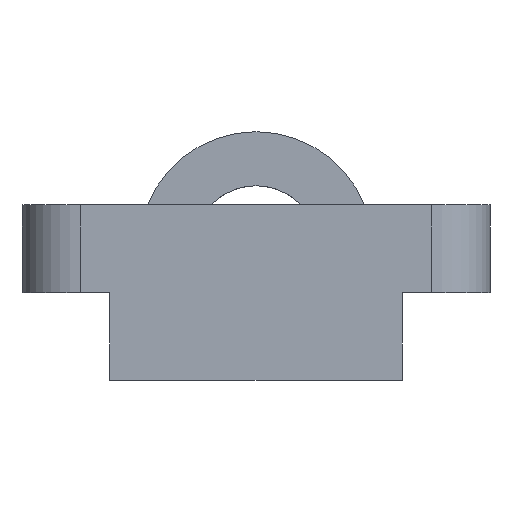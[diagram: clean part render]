
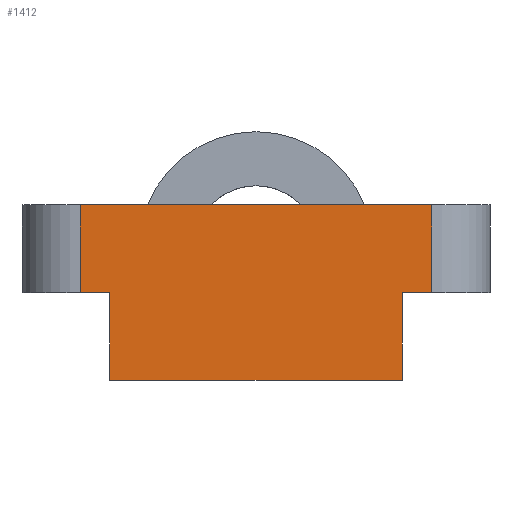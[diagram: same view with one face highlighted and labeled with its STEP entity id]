
A CAD part, front view. The second image highlights one B-rep face of the part: STEP entity #1412.
In plain terms, the highlighted planar face has unit normal (0, -1, 0).
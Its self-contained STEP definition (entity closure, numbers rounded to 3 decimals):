
#44 = PLANE('',#45);
#45 = AXIS2_PLACEMENT_3D('',#46,#47,#48);
#46 = CARTESIAN_POINT('',(-8.,-20.,0.));
#47 = DIRECTION('',(0.,0.,1.));
#48 = DIRECTION('',(1.,0.,0.));
#100 = PLANE('',#101);
#101 = AXIS2_PLACEMENT_3D('',#102,#103,#104);
#102 = CARTESIAN_POINT('',(-8.,-20.,3.));
#103 = DIRECTION('',(0.,0.,1.));
#104 = DIRECTION('',(1.,0.,0.));
#208 = PLANE('',#209);
#209 = AXIS2_PLACEMENT_3D('',#210,#211,#212);
#210 = CARTESIAN_POINT('',(-8.,-20.,0.));
#211 = DIRECTION('',(0.,0.,1.));
#212 = DIRECTION('',(1.,0.,0.));
#236 = PLANE('',#237);
#237 = AXIS2_PLACEMENT_3D('',#238,#239,#240);
#238 = CARTESIAN_POINT('',(5.,-20.,-3.));
#239 = DIRECTION('',(1.,0.,0.));
#240 = DIRECTION('',(0.,0.,1.));
#264 = PLANE('',#265);
#265 = AXIS2_PLACEMENT_3D('',#266,#267,#268);
#266 = CARTESIAN_POINT('',(-5.,-20.,-3.));
#267 = DIRECTION('',(0.,0.,1.));
#268 = DIRECTION('',(1.,0.,0.));
#290 = PLANE('',#291);
#291 = AXIS2_PLACEMENT_3D('',#292,#293,#294);
#292 = CARTESIAN_POINT('',(-5.,-20.,-3.));
#293 = DIRECTION('',(1.,0.,0.));
#294 = DIRECTION('',(0.,0.,1.));
#394 = VERTEX_POINT('',#395);
#395 = CARTESIAN_POINT('',(-6.,-20.,0.));
#410 = CYLINDRICAL_SURFACE('',#411,2.);
#411 = AXIS2_PLACEMENT_3D('',#412,#413,#414);
#412 = CARTESIAN_POINT('',(-6.,-18.,0.));
#413 = DIRECTION('',(0.,0.,1.));
#414 = DIRECTION('',(-1.,-0.,0.));
#422 = EDGE_CURVE('',#394,#423,#425,.T.);
#423 = VERTEX_POINT('',#424);
#424 = CARTESIAN_POINT('',(-5.,-20.,0.));
#425 = SURFACE_CURVE('',#426,(#430,#437),.PCURVE_S1.);
#426 = LINE('',#427,#428);
#427 = CARTESIAN_POINT('',(-8.,-20.,0.));
#428 = VECTOR('',#429,1.);
#429 = DIRECTION('',(1.,0.,0.));
#430 = PCURVE('',#44,#431);
#431 = DEFINITIONAL_REPRESENTATION('',(#432),#436);
#432 = LINE('',#433,#434);
#433 = CARTESIAN_POINT('',(0.,0.));
#434 = VECTOR('',#435,1.);
#435 = DIRECTION('',(1.,0.));
#436 = ( GEOMETRIC_REPRESENTATION_CONTEXT(2) 
PARAMETRIC_REPRESENTATION_CONTEXT() REPRESENTATION_CONTEXT('2D SPACE',''
  ) );
#437 = PCURVE('',#438,#443);
#438 = PLANE('',#439);
#439 = AXIS2_PLACEMENT_3D('',#440,#441,#442);
#440 = CARTESIAN_POINT('',(-8.,-20.,0.));
#441 = DIRECTION('',(0.,1.,0.));
#442 = DIRECTION('',(0.,0.,1.));
#443 = DEFINITIONAL_REPRESENTATION('',(#444),#448);
#444 = LINE('',#445,#446);
#445 = CARTESIAN_POINT('',(0.,0.));
#446 = VECTOR('',#447,1.);
#447 = DIRECTION('',(0.,1.));
#448 = ( GEOMETRIC_REPRESENTATION_CONTEXT(2) 
PARAMETRIC_REPRESENTATION_CONTEXT() REPRESENTATION_CONTEXT('2D SPACE',''
  ) );
#524 = EDGE_CURVE('',#525,#423,#527,.T.);
#525 = VERTEX_POINT('',#526);
#526 = CARTESIAN_POINT('',(-5.,-20.,-3.));
#527 = SURFACE_CURVE('',#528,(#532,#539),.PCURVE_S1.);
#528 = LINE('',#529,#530);
#529 = CARTESIAN_POINT('',(-5.,-20.,-3.));
#530 = VECTOR('',#531,1.);
#531 = DIRECTION('',(0.,0.,1.));
#532 = PCURVE('',#290,#533);
#533 = DEFINITIONAL_REPRESENTATION('',(#534),#538);
#534 = LINE('',#535,#536);
#535 = CARTESIAN_POINT('',(0.,0.));
#536 = VECTOR('',#537,1.);
#537 = DIRECTION('',(1.,0.));
#538 = ( GEOMETRIC_REPRESENTATION_CONTEXT(2) 
PARAMETRIC_REPRESENTATION_CONTEXT() REPRESENTATION_CONTEXT('2D SPACE',''
  ) );
#539 = PCURVE('',#438,#540);
#540 = DEFINITIONAL_REPRESENTATION('',(#541),#545);
#541 = LINE('',#542,#543);
#542 = CARTESIAN_POINT('',(-3.,3.));
#543 = VECTOR('',#544,1.);
#544 = DIRECTION('',(1.,0.));
#545 = ( GEOMETRIC_REPRESENTATION_CONTEXT(2) 
PARAMETRIC_REPRESENTATION_CONTEXT() REPRESENTATION_CONTEXT('2D SPACE',''
  ) );
#599 = VERTEX_POINT('',#600);
#600 = CARTESIAN_POINT('',(-6.,-20.,3.));
#622 = EDGE_CURVE('',#599,#623,#625,.T.);
#623 = VERTEX_POINT('',#624);
#624 = CARTESIAN_POINT('',(6.,-20.,3.));
#625 = SURFACE_CURVE('',#626,(#630,#637),.PCURVE_S1.);
#626 = LINE('',#627,#628);
#627 = CARTESIAN_POINT('',(-8.,-20.,3.));
#628 = VECTOR('',#629,1.);
#629 = DIRECTION('',(1.,0.,0.));
#630 = PCURVE('',#100,#631);
#631 = DEFINITIONAL_REPRESENTATION('',(#632),#636);
#632 = LINE('',#633,#634);
#633 = CARTESIAN_POINT('',(0.,0.));
#634 = VECTOR('',#635,1.);
#635 = DIRECTION('',(1.,0.));
#636 = ( GEOMETRIC_REPRESENTATION_CONTEXT(2) 
PARAMETRIC_REPRESENTATION_CONTEXT() REPRESENTATION_CONTEXT('2D SPACE',''
  ) );
#637 = PCURVE('',#438,#638);
#638 = DEFINITIONAL_REPRESENTATION('',(#639),#643);
#639 = LINE('',#640,#641);
#640 = CARTESIAN_POINT('',(3.,0.));
#641 = VECTOR('',#642,1.);
#642 = DIRECTION('',(0.,1.));
#643 = ( GEOMETRIC_REPRESENTATION_CONTEXT(2) 
PARAMETRIC_REPRESENTATION_CONTEXT() REPRESENTATION_CONTEXT('2D SPACE',''
  ) );
#666 = CYLINDRICAL_SURFACE('',#667,2.);
#667 = AXIS2_PLACEMENT_3D('',#668,#669,#670);
#668 = CARTESIAN_POINT('',(6.,-18.,0.));
#669 = DIRECTION('',(0.,0.,1.));
#670 = DIRECTION('',(1.,0.,-0.));
#962 = EDGE_CURVE('',#525,#963,#965,.T.);
#963 = VERTEX_POINT('',#964);
#964 = CARTESIAN_POINT('',(5.,-20.,-3.));
#965 = SURFACE_CURVE('',#966,(#970,#977),.PCURVE_S1.);
#966 = LINE('',#967,#968);
#967 = CARTESIAN_POINT('',(-5.,-20.,-3.));
#968 = VECTOR('',#969,1.);
#969 = DIRECTION('',(1.,0.,0.));
#970 = PCURVE('',#264,#971);
#971 = DEFINITIONAL_REPRESENTATION('',(#972),#976);
#972 = LINE('',#973,#974);
#973 = CARTESIAN_POINT('',(0.,0.));
#974 = VECTOR('',#975,1.);
#975 = DIRECTION('',(1.,0.));
#976 = ( GEOMETRIC_REPRESENTATION_CONTEXT(2) 
PARAMETRIC_REPRESENTATION_CONTEXT() REPRESENTATION_CONTEXT('2D SPACE',''
  ) );
#977 = PCURVE('',#438,#978);
#978 = DEFINITIONAL_REPRESENTATION('',(#979),#983);
#979 = LINE('',#980,#981);
#980 = CARTESIAN_POINT('',(-3.,3.));
#981 = VECTOR('',#982,1.);
#982 = DIRECTION('',(0.,1.));
#983 = ( GEOMETRIC_REPRESENTATION_CONTEXT(2) 
PARAMETRIC_REPRESENTATION_CONTEXT() REPRESENTATION_CONTEXT('2D SPACE',''
  ) );
#1108 = EDGE_CURVE('',#963,#1109,#1111,.T.);
#1109 = VERTEX_POINT('',#1110);
#1110 = CARTESIAN_POINT('',(5.,-20.,0.));
#1111 = SURFACE_CURVE('',#1112,(#1116,#1123),.PCURVE_S1.);
#1112 = LINE('',#1113,#1114);
#1113 = CARTESIAN_POINT('',(5.,-20.,-3.));
#1114 = VECTOR('',#1115,1.);
#1115 = DIRECTION('',(0.,0.,1.));
#1116 = PCURVE('',#236,#1117);
#1117 = DEFINITIONAL_REPRESENTATION('',(#1118),#1122);
#1118 = LINE('',#1119,#1120);
#1119 = CARTESIAN_POINT('',(0.,0.));
#1120 = VECTOR('',#1121,1.);
#1121 = DIRECTION('',(1.,0.));
#1122 = ( GEOMETRIC_REPRESENTATION_CONTEXT(2) 
PARAMETRIC_REPRESENTATION_CONTEXT() REPRESENTATION_CONTEXT('2D SPACE',''
  ) );
#1123 = PCURVE('',#438,#1124);
#1124 = DEFINITIONAL_REPRESENTATION('',(#1125),#1129);
#1125 = LINE('',#1126,#1127);
#1126 = CARTESIAN_POINT('',(-3.,13.));
#1127 = VECTOR('',#1128,1.);
#1128 = DIRECTION('',(1.,0.));
#1129 = ( GEOMETRIC_REPRESENTATION_CONTEXT(2) 
PARAMETRIC_REPRESENTATION_CONTEXT() REPRESENTATION_CONTEXT('2D SPACE',''
  ) );
#1159 = EDGE_CURVE('',#1109,#1160,#1162,.T.);
#1160 = VERTEX_POINT('',#1161);
#1161 = CARTESIAN_POINT('',(6.,-20.,0.));
#1162 = SURFACE_CURVE('',#1163,(#1167,#1174),.PCURVE_S1.);
#1163 = LINE('',#1164,#1165);
#1164 = CARTESIAN_POINT('',(-8.,-20.,0.));
#1165 = VECTOR('',#1166,1.);
#1166 = DIRECTION('',(1.,0.,0.));
#1167 = PCURVE('',#208,#1168);
#1168 = DEFINITIONAL_REPRESENTATION('',(#1169),#1173);
#1169 = LINE('',#1170,#1171);
#1170 = CARTESIAN_POINT('',(0.,0.));
#1171 = VECTOR('',#1172,1.);
#1172 = DIRECTION('',(1.,0.));
#1173 = ( GEOMETRIC_REPRESENTATION_CONTEXT(2) 
PARAMETRIC_REPRESENTATION_CONTEXT() REPRESENTATION_CONTEXT('2D SPACE',''
  ) );
#1174 = PCURVE('',#438,#1175);
#1175 = DEFINITIONAL_REPRESENTATION('',(#1176),#1180);
#1176 = LINE('',#1177,#1178);
#1177 = CARTESIAN_POINT('',(0.,0.));
#1178 = VECTOR('',#1179,1.);
#1179 = DIRECTION('',(0.,1.));
#1180 = ( GEOMETRIC_REPRESENTATION_CONTEXT(2) 
PARAMETRIC_REPRESENTATION_CONTEXT() REPRESENTATION_CONTEXT('2D SPACE',''
  ) );
#1412 = ADVANCED_FACE('',(#1413),#438,.F.);
#1413 = FACE_BOUND('',#1414,.F.);
#1414 = EDGE_LOOP('',(#1415,#1416,#1437,#1438,#1459,#1460,#1461,#1462));
#1415 = ORIENTED_EDGE('',*,*,#422,.F.);
#1416 = ORIENTED_EDGE('',*,*,#1417,.T.);
#1417 = EDGE_CURVE('',#394,#599,#1418,.T.);
#1418 = SURFACE_CURVE('',#1419,(#1423,#1430),.PCURVE_S1.);
#1419 = LINE('',#1420,#1421);
#1420 = CARTESIAN_POINT('',(-6.,-20.,0.));
#1421 = VECTOR('',#1422,1.);
#1422 = DIRECTION('',(0.,0.,1.));
#1423 = PCURVE('',#438,#1424);
#1424 = DEFINITIONAL_REPRESENTATION('',(#1425),#1429);
#1425 = LINE('',#1426,#1427);
#1426 = CARTESIAN_POINT('',(0.,2.));
#1427 = VECTOR('',#1428,1.);
#1428 = DIRECTION('',(1.,0.));
#1429 = ( GEOMETRIC_REPRESENTATION_CONTEXT(2) 
PARAMETRIC_REPRESENTATION_CONTEXT() REPRESENTATION_CONTEXT('2D SPACE',''
  ) );
#1430 = PCURVE('',#410,#1431);
#1431 = DEFINITIONAL_REPRESENTATION('',(#1432),#1436);
#1432 = LINE('',#1433,#1434);
#1433 = CARTESIAN_POINT('',(1.571,0.));
#1434 = VECTOR('',#1435,1.);
#1435 = DIRECTION('',(0.,1.));
#1436 = ( GEOMETRIC_REPRESENTATION_CONTEXT(2) 
PARAMETRIC_REPRESENTATION_CONTEXT() REPRESENTATION_CONTEXT('2D SPACE',''
  ) );
#1437 = ORIENTED_EDGE('',*,*,#622,.T.);
#1438 = ORIENTED_EDGE('',*,*,#1439,.F.);
#1439 = EDGE_CURVE('',#1160,#623,#1440,.T.);
#1440 = SURFACE_CURVE('',#1441,(#1445,#1452),.PCURVE_S1.);
#1441 = LINE('',#1442,#1443);
#1442 = CARTESIAN_POINT('',(6.,-20.,0.));
#1443 = VECTOR('',#1444,1.);
#1444 = DIRECTION('',(0.,0.,1.));
#1445 = PCURVE('',#438,#1446);
#1446 = DEFINITIONAL_REPRESENTATION('',(#1447),#1451);
#1447 = LINE('',#1448,#1449);
#1448 = CARTESIAN_POINT('',(0.,14.));
#1449 = VECTOR('',#1450,1.);
#1450 = DIRECTION('',(1.,0.));
#1451 = ( GEOMETRIC_REPRESENTATION_CONTEXT(2) 
PARAMETRIC_REPRESENTATION_CONTEXT() REPRESENTATION_CONTEXT('2D SPACE',''
  ) );
#1452 = PCURVE('',#666,#1453);
#1453 = DEFINITIONAL_REPRESENTATION('',(#1454),#1458);
#1454 = LINE('',#1455,#1456);
#1455 = CARTESIAN_POINT('',(-1.571,0.));
#1456 = VECTOR('',#1457,1.);
#1457 = DIRECTION('',(-0.,1.));
#1458 = ( GEOMETRIC_REPRESENTATION_CONTEXT(2) 
PARAMETRIC_REPRESENTATION_CONTEXT() REPRESENTATION_CONTEXT('2D SPACE',''
  ) );
#1459 = ORIENTED_EDGE('',*,*,#1159,.F.);
#1460 = ORIENTED_EDGE('',*,*,#1108,.F.);
#1461 = ORIENTED_EDGE('',*,*,#962,.F.);
#1462 = ORIENTED_EDGE('',*,*,#524,.T.);
